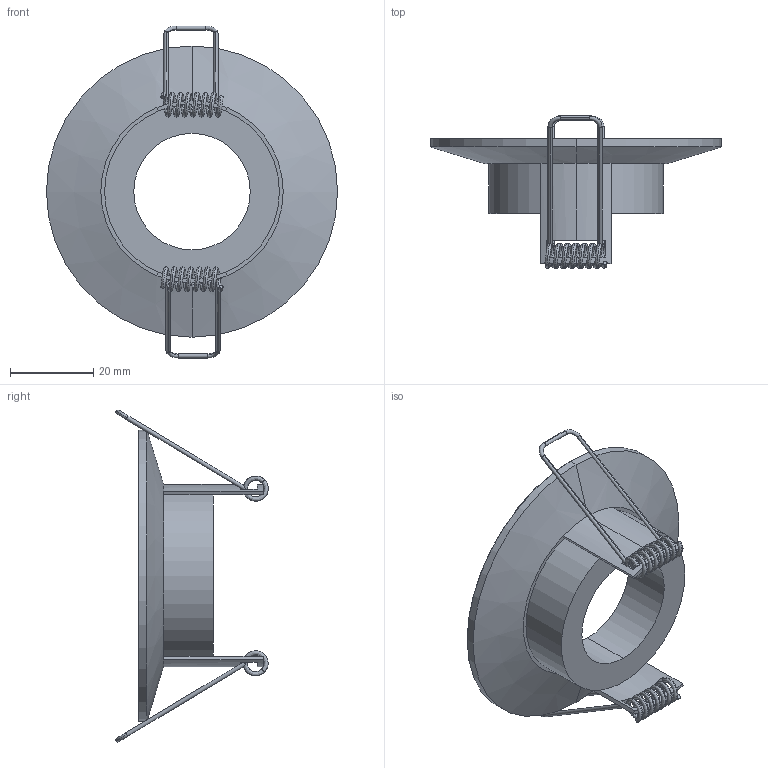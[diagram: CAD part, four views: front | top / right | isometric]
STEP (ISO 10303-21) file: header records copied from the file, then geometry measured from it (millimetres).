
FILE_DESCRIPTION (( 'STEP AP214' ), '1' );
FILE_NAME ('EnsamblajeFOCO 3.STEP', '2026-02-13T12:43:26', ( '' ), ( '' ), 'SwSTEP 2.0', 'SolidWorks 2023', '' );
FILE_SCHEMA (( 'AUTOMOTIVE_DESIGN' ));
Length unit declared in the file: millimetre
Products named in the file (3): PINZA3; EnsamblajeFOCO 3; FOCO3
Assembly tree (3 placements, depth 2):
  EnsamblajeFOCO 3
    FOCO3
    PINZA3  x2
Bounding box: 70 x 36.67 x 79.81 mm (x, y, z)
Volume: 16261.4 mm3; surface area: 11738.8 mm2
Topology: 3 solids, 3 shells, 62 faces, 181 edges, 119 vertices
Faces by surface type: cylinder 24, plane 22, torus 8, cone 4, bspline 4
Entity records: 4016 total; most frequent: CARTESIAN_POINT 2652, DIRECTION 288, ORIENTED_EDGE 270, EDGE_CURVE 135, AXIS2_PLACEMENT_3D 117, VERTEX_POINT 87, CIRCLE 65, LINE 54
